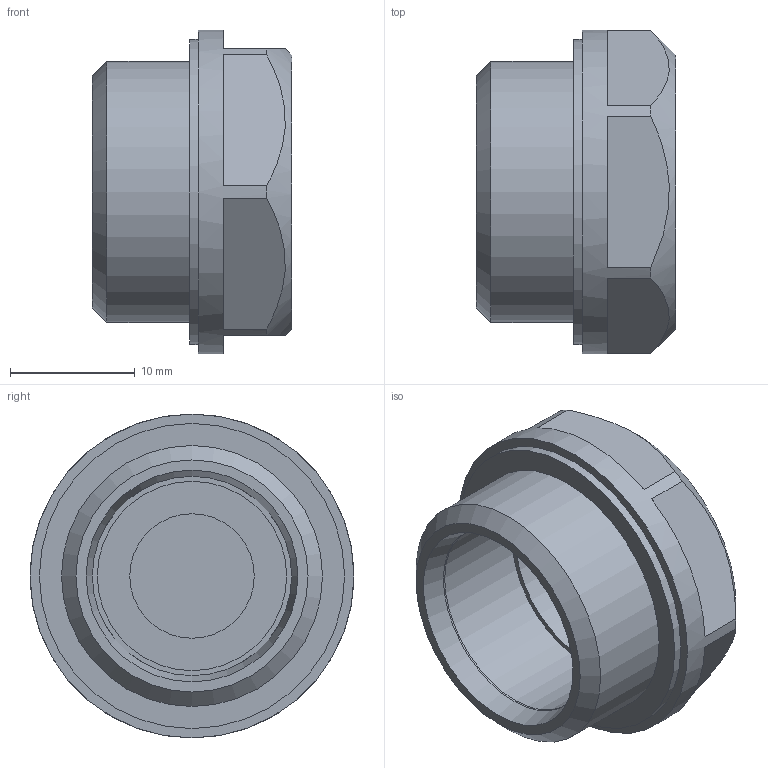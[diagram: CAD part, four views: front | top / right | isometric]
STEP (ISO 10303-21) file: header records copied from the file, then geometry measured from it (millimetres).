
FILE_DESCRIPTION( ( 'STEP AP203' ), '1' );
FILE_NAME( 'C:/Temp/Ganter_Step_05_03_2020/data/3_5/gn_7403/gn_7403_ni/Stainless Steel-Breather strainer GN 7403-NI-G1_2-500.stp', '2020-03-12T13:43:03', ( 'License CC BY-ND 4.0' ), ( 'CADENAS' ), ' ', 'PARTsolutions', ' ' );
FILE_SCHEMA( ( 'CONFIG_CONTROL_DESIGN' ) );
Length unit declared in the file: millimetre
Products named in the file (1): _Stainless Steel-Breather strainer GN 7403-NI-G1/2-500
Bounding box: 16 x 26 x 26 mm (x, y, z)
Volume: 3562.6 mm3; surface area: 2826.9 mm2
Topology: 1 solids, 1 shells, 32 faces, 69 edges, 45 vertices
Faces by surface type: plane 20, cylinder 7, cone 4, torus 1
Full cylindrical faces by diameter (mm): 10 x1, 14 x1, 15.2 x1, 16 x1, 20.955 x1, 24.5 x1, 26 x1
Entity records: 906 total; most frequent: CARTESIAN_POINT 211, DIRECTION 144, ORIENTED_EDGE 108, AXIS2_PLACEMENT_3D 63, EDGE_CURVE 54, EDGE_LOOP 50, VERTEX_POINT 42, FACE_OUTER_BOUND 40
